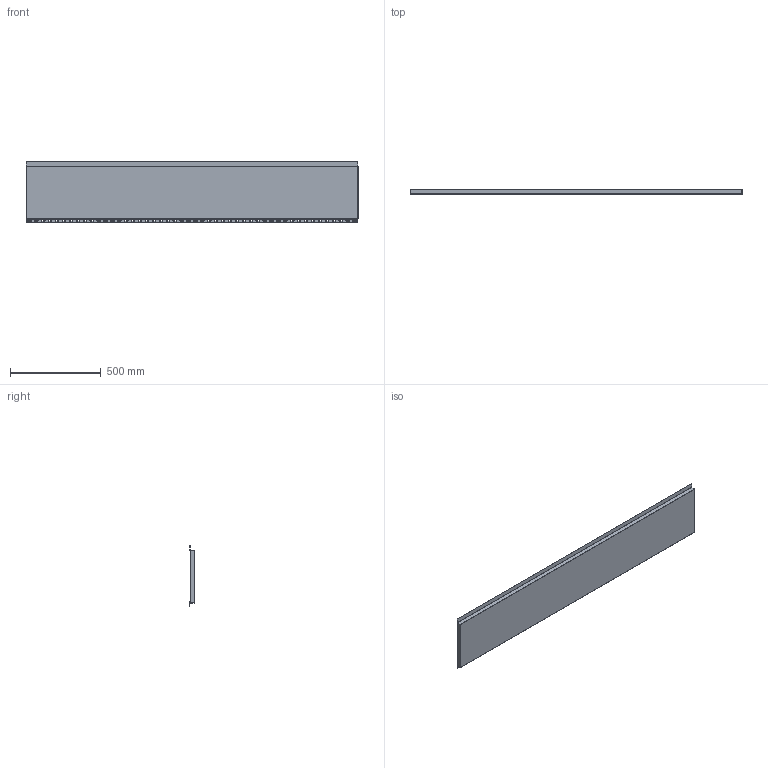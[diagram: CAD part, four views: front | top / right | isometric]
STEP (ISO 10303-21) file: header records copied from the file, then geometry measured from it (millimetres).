
FILE_DESCRIPTION(/* description */ (''),/* implementation_level */ '2;1');
FILE_NAME(/* name */ 'SPPG24.12X72.stp',/* time_stamp */ '2023-11-08T17:12:01-05:00',/* author */ ('Olivier St-Arneault'),/* organization */ (''),/* preprocessor_version */ 'ST-DEVELOPER v19.2',/* originating_system */ 'Autodesk Inventor 2024',/* authorisation */ '');
FILE_SCHEMA (('AUTOMOTIVE_DESIGN { 1 0 10303 214 3 1 1 }'));
Length unit declared in the file: inch
Products named in the file (1): SPPG24.12X72
Bounding box: 1828.8 x 25.4 x 333.96 mm (x, y, z)
Volume: 12165956.9 mm3; surface area: 2646063.6 mm2
Topology: 2 solids, 2 shells, 242 faces, 708 edges, 470 vertices
Faces by surface type: plane 130, cylinder 112
Entity records: 8324 total; most frequent: CARTESIAN_POINT 1425, DIRECTION 1422, ORIENTED_EDGE 1420, EDGE_CURVE 710, LINE 484, VECTOR 484, VERTEX_POINT 472, AXIS2_PLACEMENT_3D 469
